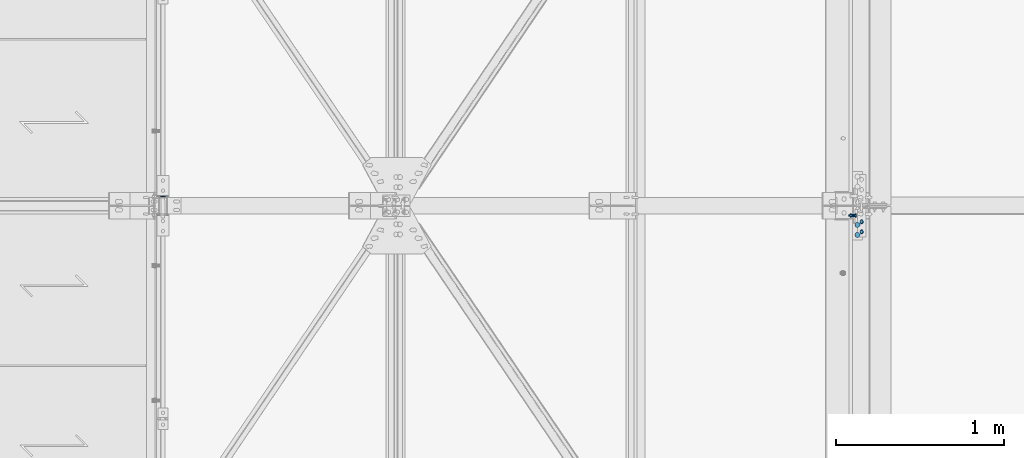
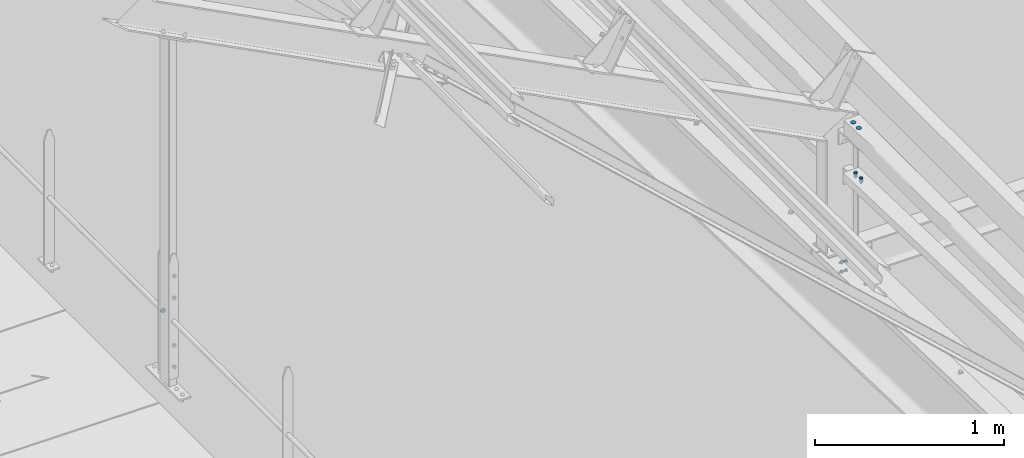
# One storey, part 293 of 362: 4 mechanical fasteners.
"""IFC2X3 building model written with IfcOpenShell, lengths in millimetres."""

import ifcopenshell
import ifcopenshell.guid

model = None  # the IFC model being written
_history = None  # IfcOwnerHistory: only IFC2X3 demands one
_inside = {}  # id of a spatial element -> (the spatial element, [elements in it])
_under = {}  # id of a project, library or spatial element -> (it, [spatial elements below it])
_declared = {}  # id of a project -> (the project, [libraries it declares])
_typed = {}  # id of a type object -> (the type object, [elements of that type])
_made_of = {}  # id of a material, layer set ... -> (it, [elements and type objects made of it])


def new_model(schema):
    """Start an empty IFC model of exactly this schema.

    Asked for "IFC4X3", IfcOpenShell would pick the latest addendum, in which some entities
    have other attributes; the version numbers below select the first issue.
    IFC2X3 requires an IfcOwnerHistory on every rooted entity: one is made here for all.
    """
    global model, _history
    if schema == "IFC4X3":
        model = ifcopenshell.file(schema_version=(4, 3, 0, 0))
    else:
        model = ifcopenshell.file(schema=schema)
    _inside.clear()
    _under.clear()
    _declared.clear()
    _typed.clear()
    _made_of.clear()
    _history = None
    if model.schema == "IFC2X3":
        org = make("IfcOrganization", Name="unknown")
        user = make(
            "IfcPersonAndOrganization",
            ThePerson=make("IfcPerson", FamilyName="unknown"),
            TheOrganization=org,
        )
        app = make(
            "IfcApplication",
            ApplicationDeveloper=org,
            Version="unknown",
            ApplicationFullName="unknown",
            ApplicationIdentifier="unknown",
        )
        _history = make(
            "IfcOwnerHistory",
            OwningUser=user,
            OwningApplication=app,
            ChangeAction="ADDED",
            CreationDate=0,
        )
    return model


def make(cls, **values):
    """One entity of the class cls with the attributes given. An attribute that is None is left unset."""
    return model.create_entity(
        cls, **{name: value for name, value in values.items() if value is not None}
    )


def rooted(cls, **values):
    """An entity with a GlobalId (a new one), such as an element, a storey or a relation."""
    return make(cls, GlobalId=ifcopenshell.guid.new(), OwnerHistory=_history, **values)


def si_unit(unit_type, name, prefix=None):
    """IfcSIUnit, for example si_unit("LENGTHUNIT", "METRE", prefix="MILLI")."""
    return make("IfcSIUnit", UnitType=unit_type, Prefix=prefix, Name=name)


def assignment(units):
    """IfcUnitAssignment: the units of a project."""
    return None if units is None else make("IfcUnitAssignment", Units=units)


def point(xyz):
    """IfcCartesianPoint."""
    return None if xyz is None else make("IfcCartesianPoint", Coordinates=xyz)


def direction(xyz):
    """IfcDirection."""
    return None if xyz is None else make("IfcDirection", DirectionRatios=xyz)


def frame(location, z_axis=None, x_axis=None):
    """IfcAxis2Placement3D, a coordinate frame: its origin and axes. An axis left out is left unset."""
    return make(
        "IfcAxis2Placement3D",
        Location=point(location),
        Axis=direction(z_axis),
        RefDirection=direction(x_axis),
    )


def frame_2d(location, x_axis=None):
    """IfcAxis2Placement2D, a coordinate frame in the plane: its origin and x axis."""
    return make(
        "IfcAxis2Placement2D", Location=point(location), RefDirection=direction(x_axis)
    )


def origin_with_axes():
    """The frame at (0, 0, 0) with the z axis (0, 0, 1) and the x axis (1, 0, 0) written out."""
    return frame((0.0, 0.0, 0.0), z_axis=(0.0, 0.0, 1.0), x_axis=(1.0, 0.0, 0.0))


def origin_2d_with_axis():
    """The frame at (0, 0) in the plane with the x axis (1, 0) written out."""
    return frame_2d((0.0, 0.0), x_axis=(1.0, 0.0))


def place(relative_to, where):
    """IfcLocalPlacement: puts the frame where relative to a parent placement (None: the world)."""
    return make(
        "IfcLocalPlacement", PlacementRelTo=relative_to, RelativePlacement=where
    )


def context(
    kind, dimensions, precision=None, world=None, true_north=None, identifier=None
):
    """IfcGeometricRepresentationContext, for example the 3D "Model" context."""
    return make(
        "IfcGeometricRepresentationContext",
        ContextIdentifier=identifier,
        ContextType=kind,
        CoordinateSpaceDimension=dimensions,
        Precision=precision,
        WorldCoordinateSystem=world,
        TrueNorth=true_north,
    )


def subcontext(parent, identifier, kind, view, scale=None):
    """IfcGeometricRepresentationSubContext, for example "Body" below "Model"."""
    return make(
        "IfcGeometricRepresentationSubContext",
        ContextIdentifier=identifier,
        ContextType=kind,
        ParentContext=parent,
        TargetScale=scale,
        TargetView=view,
    )


def project(units=None, contexts=None):
    """IfcProject with its units and contexts."""
    return rooted(
        "IfcProject",
        Name="project",
        RepresentationContexts=contexts,
        UnitsInContext=assignment(units),
    )


def spatial(cls, under=None, at=None, **own):
    """A site, building, storey or space (cls), placed at a placement, below another one or the project."""
    s = rooted(cls, ObjectPlacement=at, **own)
    if under is not None:
        _under.setdefault(under.id(), (under, []))[1].append(s)
    return s


def polyline(points):
    """IfcPolyline through the points."""
    return make("IfcPolyline", Points=[point(p) for p in points])


def circle_curve(where, radius):
    """IfcCircle in the frame where."""
    return make("IfcCircle", Position=where, Radius=radius)


def parameter(value):
    """IfcParameterValue: where a trimmed curve begins or ends, as a parameter of its basis curve."""
    return model.create_entity("IfcParameterValue", value)


def trimmed(basis, trim1, trim2, sense, master):
    """IfcTrimmedCurve: the piece of a basis curve between two trims."""
    return make(
        "IfcTrimmedCurve",
        BasisCurve=basis,
        Trim1=trim1,
        Trim2=trim2,
        SenseAgreement=sense,
        MasterRepresentation=master,
    )


def segment(curve, same_sense, transition):
    """IfcCompositeCurveSegment."""
    return make(
        "IfcCompositeCurveSegment",
        Transition=transition,
        SameSense=same_sense,
        ParentCurve=curve,
    )


def composite_curve(segments, self_intersect=None):
    """IfcCompositeCurve: segments joined end to end."""
    return make("IfcCompositeCurve", Segments=segments, SelfIntersect=self_intersect)


def profile(cls, at=None, kind="AREA", **sizes):
    """A parametric profile (cls). Its sizes go by their IFC names, for example OverallWidth=200.0."""
    return make(cls, ProfileType=kind, Position=at, **sizes)


def circle(**sizes):
    """IfcCircleProfileDef."""
    return profile("IfcCircleProfileDef", **sizes)


def outline(outer, holes=None, kind="AREA"):
    """IfcArbitraryClosedProfileDef: a profile drawn as a closed curve; with holes, ...WithVoids."""
    if holes is None:
        return make("IfcArbitraryClosedProfileDef", ProfileType=kind, OuterCurve=outer)
    return make(
        "IfcArbitraryProfileDefWithVoids",
        ProfileType=kind,
        OuterCurve=outer,
        InnerCurves=holes,
    )


def extrude(swept, where, along, depth):
    """IfcExtrudedAreaSolid: the profile swept, set in the frame where, extruded along a direction by depth."""
    return make(
        "IfcExtrudedAreaSolid",
        SweptArea=swept,
        Position=where,
        ExtrudedDirection=direction(along),
        Depth=depth,
    )


def shape(context_of_items, identifier, shape_type, items):
    """IfcShapeRepresentation: the items that make up one representation, for example the "Body"."""
    return make(
        "IfcShapeRepresentation",
        ContextOfItems=context_of_items,
        RepresentationIdentifier=identifier,
        RepresentationType=shape_type,
        Items=items,
    )


def source(mapping_origin, context_of_items, identifier, shape_type, items):
    """IfcRepresentationMap: a shape defined once, which mapped items show again and again."""
    return make(
        "IfcRepresentationMap",
        MappingOrigin=mapping_origin,
        MappedRepresentation=shape(context_of_items, identifier, shape_type, items),
    )


def transform(
    local_origin,
    x_axis=None,
    y_axis=None,
    z_axis=None,
    scale=None,
    scale2=None,
    scale3=None,
    uniform=True,
):
    """IfcCartesianTransformationOperator3D, or its non-uniform kind. x_axis, y_axis, z_axis: its Axis1, 2, 3."""
    if uniform:
        return make(
            "IfcCartesianTransformationOperator3D",
            Axis1=direction(x_axis),
            Axis2=direction(y_axis),
            LocalOrigin=point(local_origin),
            Scale=scale,
            Axis3=direction(z_axis),
        )
    return make(
        "IfcCartesianTransformationOperator3DnonUniform",
        Axis1=direction(x_axis),
        Axis2=direction(y_axis),
        LocalOrigin=point(local_origin),
        Scale=scale,
        Axis3=direction(z_axis),
        Scale2=scale2,
        Scale3=scale3,
    )


def mapped(mapping_source, mapping_target):
    """IfcMappedItem: shows the shape of a source again, moved by a transform."""
    return make(
        "IfcMappedItem", MappingSource=mapping_source, MappingTarget=mapping_target
    )


def material(Name=None, Category=None):
    """IfcMaterial."""
    return make("IfcMaterial", Name=Name, Category=Category)


def made_of(thing, what):
    """Note that an element or type object is made of a material, layer set ...; save() writes the relation."""
    if what is not None:
        _made_of.setdefault(what.id(), (what, []))[1].append(thing)
    return thing


def type_object(cls, material=None, **own):
    """A type object (cls), such as IfcWallType, which elements share."""
    return made_of(rooted(cls, **own), material)


def element(
    cls,
    number,
    at=None,
    inside=None,
    cuts=None,
    type_object=None,
    material=None,
    context=None,
    identifier="Body",
    shape_type=None,
    held_by="IfcProductDefinitionShape",
    body=None,
    shapes=None,
    **own,
):
    """One element of the class cls, such as IfcWall. Its Tag is "e" and its number.

    at: its placement. inside: the storey or other place that contains it. cuts: it is an
    opening in that element (IfcRelVoidsElement). A single representation is given by context,
    identifier, shape_type and body (its items); several are given by shapes. held_by: the class
    of the entity that holds the representations. save() writes the other relations.
    """
    e = rooted(cls, Tag="e%d" % number, ObjectPlacement=at, **own)
    if body is not None:
        shapes = [shape(context, identifier, shape_type, body)]
    if shapes is not None:
        e.Representation = make(held_by, Representations=shapes)
    if inside is not None:
        _inside.setdefault(inside.id(), (inside, []))[1].append(e)
    if cuts is not None:
        rooted(
            "IfcRelVoidsElement", RelatingBuildingElement=cuts, RelatedOpeningElement=e
        )
    if type_object is not None:
        _typed.setdefault(type_object.id(), (type_object, []))[1].append(e)
    return made_of(e, material)


def aggregate(whole, parts):
    """IfcRelAggregates: a whole, such as a stair, and the parts it consists of."""
    return rooted("IfcRelAggregates", RelatingObject=whole, RelatedObjects=parts)


def save(model, path):
    """Write the relations noted so far, then the file.

    IfcRelAggregates (storeys below a building ...), IfcRelContainedInSpatialStructure (elements
    in a storey), IfcRelDefinesByType, IfcRelAssociatesMaterial and IfcRelDeclares: one each for
    every whole, place, type object, material and project.
    """
    for whole, parts in _under.values():
        aggregate(whole, parts)
    for where, things in _inside.values():
        rooted(
            "IfcRelContainedInSpatialStructure",
            RelatedElements=things,
            RelatingStructure=where,
        )
    for kind, things in _typed.values():
        rooted("IfcRelDefinesByType", RelatedObjects=things, RelatingType=kind)
    for what, things in _made_of.values():
        rooted("IfcRelAssociatesMaterial", RelatedObjects=things, RelatingMaterial=what)
    for by, libraries in _declared.values():
        rooted("IfcRelDeclares", RelatingContext=by, RelatedDefinitions=libraries)
    model.write(path)


model = new_model("IFC2X3")

# Units and contexts
model_context = context("Model", 3, precision=1e-05, world=origin_with_axes())
body_context = subcontext(model_context, "Body", "Model", "MODEL_VIEW")
ifc_project = project(units=[si_unit("LENGTHUNIT", "METRE", prefix="MILLI"), si_unit("AREAUNIT", "SQUARE_METRE"), si_unit("VOLUMEUNIT", "CUBIC_METRE"), si_unit("MASSUNIT", "GRAM", prefix="KILO"), si_unit("TIMEUNIT", "SECOND"), si_unit("PLANEANGLEUNIT", "RADIAN"), si_unit("SOLIDANGLEUNIT", "STERADIAN"), si_unit("THERMODYNAMICTEMPERATUREUNIT", "DEGREE_CELSIUS"), si_unit("LUMINOUSINTENSITYUNIT", "LUMEN")], contexts=[model_context])

# Site, building, storey
site_placement = place(None, origin_with_axes())
site = spatial("IfcSite", under=ifc_project, at=site_placement, Name="Undefined", CompositionType="ELEMENT")
building_placement = place(site_placement, origin_with_axes())
building = spatial("IfcBuilding", under=site, at=building_placement, Name="Undefined", CompositionType="ELEMENT")
storey_placement = place(building_placement, origin_with_axes())
storey = spatial("IfcBuildingStorey", under=building, at=storey_placement, Name="Undefined", CompositionType="ELEMENT", Elevation=0.0)

# Mechanical fasteners
ifc_material_1 = material(Name="6.8")
mechanical_fastener_type = type_object("IfcMechanicalFastenerType", Name="Bolt assembly")
shared_shape_1 = source(origin_with_axes(), body_context, "Body", "SweptSolid", [
    extrude(circle(Radius=15.0, at=origin_2d_with_axis()), frame((0.0, 0.0, 0.0), z_axis=(0.0, 1.0, 0.0), x_axis=(1.0, 0.0, 0.0)), (0.0, 0.0, 1.0), 4.1),
])
mechanical_fastener_1_placement = place(storey_placement, frame((28910.0, 11226.5, 8550.0), z_axis=(-1.0, 0.0, 0.0), x_axis=(0.0, 1.0, 0.0)))
element("IfcMechanicalFastener", 1, at=mechanical_fastener_1_placement, inside=storey, type_object=mechanical_fastener_type, material=ifc_material_1, Name="Bolt assembly", NominalDiameter=30.0, NominalLength=4.0, context=body_context, shape_type="MappedRepresentation", body=[
    mapped(shared_shape_1, transform((0.0, 0.0, 0.0))),
    mapped(shared_shape_1, transform((60.0, 0.0, 0.0))),
])
shared_shape_2 = source(origin_with_axes(), body_context, "Body", "SweptSolid", [
    extrude(circle(Radius=14.0, at=origin_2d_with_axis()), frame((0.0, -2.5, 0.0), z_axis=(0.0, 1.0, 0.0), x_axis=(1.0, 0.0, 0.0)), (0.0, 0.0, 1.0), 5.1),
])
mechanical_fastener_2_placement = place(storey_placement, frame((24783.991606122, 11455.0000018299, 8673.7999992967), z_axis=(0.0, 0.0, 1.0), x_axis=(-1.0, 0.0, 0.0)))
element("IfcMechanicalFastener", 2, at=mechanical_fastener_2_placement, inside=storey, type_object=mechanical_fastener_type, material=ifc_material_1, Name="Bolt assembly", NominalDiameter=27.0, NominalLength=10.0, context=body_context, shape_type="MappedRepresentation", body=[
    mapped(shared_shape_2, transform((0.0, 0.0, 0.0))),
])
ifc_material_2 = material(Name="8.8-SB-ZINGUE")
shared_shape_3 = source(origin_with_axes(), body_context, "Body", "SweptSolid", [
    extrude(circle(Radius=7.0, at=origin_2d_with_axis()), frame((0.0, -3.89999843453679, 0.0), z_axis=(0.0, 1.0, 0.0), x_axis=(1.0, 0.0, 0.0)), (0.0, 0.0, 1.0), 4.0),
    extrude(outline(composite_curve([segment(polyline([(-7.0, 7.0), (7.0, 7.0)]), True, "CONTINUOUS"), segment(trimmed(circle_curve(frame_2d((7.0, 0.0), x_axis=(0.0, 1.0)), 7.0), [parameter(0.0)], [parameter(3.14159265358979)], False, "PARAMETER"), True, "CONTINUOUS"), segment(polyline([(7.0, -7.0), (-7.0, -7.0)]), True, "CONTINUOUS"), segment(trimmed(circle_curve(frame_2d((-7.0, 0.0), x_axis=(0.0, -1.0)), 7.0), [parameter(0.0)], [parameter(3.14159265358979)], False, "PARAMETER"), True, "DISCONTINUOUS")], self_intersect=False)), frame((0.0, -0.100011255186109, 0.0), z_axis=(0.0, 1.0, 0.0), x_axis=(1.0, 0.0, 0.0)), (0.0, 0.0, 1.0), 6.1),
    extrude(outline(polyline([(10.39230484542, 0.0), (5.19615242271, 9.00000000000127), (-5.19615242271, 9.00000000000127), (-10.39230484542, 0.0), (-5.19615242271, -9.00000000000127), (5.19615242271, -9.00000000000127), (10.39230484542, 0.0)])), frame((0.0, -11.9199984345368, 0.0), z_axis=(0.0, 1.0, 0.0), x_axis=(1.0, 0.0, 0.0)), (0.0, 0.0, 1.0), 7.92),
    extrude(circle(Radius=6.0, at=origin_2d_with_axis()), frame((0.0, -3.99999923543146, 0.0), z_axis=(0.0, 1.0, 0.0), x_axis=(1.0, 0.0, 0.0)), (0.0, 0.0, 1.0), 30.0),
    extrude(circle(Radius=10.8, at=origin_2d_with_axis()), frame((0.0, 6.0, 0.0), z_axis=(0.0, 1.0, 0.0), x_axis=(1.0, 0.0, 0.0)), (0.0, 0.0, 1.0), 3.96),
    extrude(outline(polyline([(11.5008173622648, 0.0), (5.7504086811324, 9.96000000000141), (-5.7504086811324, 9.96000000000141), (-11.5008173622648, 0.0), (-5.7504086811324, -9.96000000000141), (5.7504086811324, -9.96000000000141), (11.5008173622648, 0.0)])), frame((0.0, 9.9600084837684, 0.0), z_axis=(0.0, 1.0, 0.0), x_axis=(1.0, 0.0, 0.0)), (0.0, 0.0, 1.0), 7.92),
])
mechanical_fastener_3_placement = place(storey_placement, frame((28935.0, 11245.0444201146, 8197.86935261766), z_axis=(-1.0, 0.0, 0.0), x_axis=(0.0, 0.99950644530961, -0.0314144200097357)))
element("IfcMechanicalFastener", 3, at=mechanical_fastener_3_placement, inside=storey, type_object=mechanical_fastener_type, material=ifc_material_2, Name="Bolt assembly", NominalDiameter=12.0, NominalLength=30.0, context=body_context, shape_type="MappedRepresentation", body=[
    mapped(shared_shape_3, transform((0.0, 0.0, 0.0))),
    mapped(shared_shape_3, transform((60.0, 0.0, 0.0))),
])
shared_shape_4 = source(origin_with_axes(), body_context, "Body", "SweptSolid", [
    extrude(circle(Radius=7.0, at=origin_2d_with_axis()), frame((0.0, -5.65000019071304, 0.0), z_axis=(0.0, 1.0, 0.0), x_axis=(1.0, 0.0, 0.0)), (0.0, 0.0, 1.0), 11.2),
    extrude(circle(Radius=7.0, at=origin_2d_with_axis()), frame((0.0, -15.9000004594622, 0.0), z_axis=(0.0, 1.0, 0.0), x_axis=(1.0, 0.0, 0.0)), (0.0, 0.0, 1.0), 10.0),
    extrude(outline(polyline([(10.39230484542, 0.0), (5.19615242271, 9.00000000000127), (-5.19615242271, 9.00000000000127), (-10.39230484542, 0.0), (-5.19615242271, -9.00000000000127), (5.19615242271, -9.00000000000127), (10.39230484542, 0.0)])), frame((0.0, -23.9200004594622, 0.0), z_axis=(0.0, 1.0, 0.0), x_axis=(1.0, 0.0, 0.0)), (0.0, 0.0, 1.0), 7.92),
    extrude(circle(Radius=6.0, at=origin_2d_with_axis()), frame((0.0, -16.0000004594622, 0.0), z_axis=(0.0, 1.0, 0.0), x_axis=(1.0, 0.0, 0.0)), (0.0, 0.0, 1.0), 40.0),
    extrude(outline(polyline([(11.5008173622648, 0.0), (5.7504086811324, 9.96000000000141), (-5.7504086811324, 9.96000000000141), (-11.5008173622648, 0.0), (-5.7504086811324, -9.96000000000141), (5.7504086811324, -9.96000000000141), (11.5008173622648, 0.0)])), frame((0.0, 5.55000018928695, 0.0), z_axis=(0.0, 1.0, 0.0), x_axis=(1.0, 0.0, 0.0)), (0.0, 0.0, 1.0), 7.92),
])
mechanical_fastener_4_placement = place(storey_placement, frame((28880.0, 11342.0281904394, 7593.51351111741), z_axis=(7.58071938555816e-11, 0.0314107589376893, 0.999506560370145), x_axis=(3.14103090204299e-11, 0.999506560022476, -0.0314107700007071)))
element("IfcMechanicalFastener", 4, at=mechanical_fastener_4_placement, inside=storey, type_object=mechanical_fastener_type, material=ifc_material_2, Name="Bolt assembly", NominalDiameter=12.0, NominalLength=40.0, context=body_context, shape_type="MappedRepresentation", body=[
    mapped(shared_shape_4, transform((0.0, 0.0, -30.0))),
    mapped(shared_shape_4, transform((0.0, 0.0, 30.0))),
])

save(model, "model.ifc")
